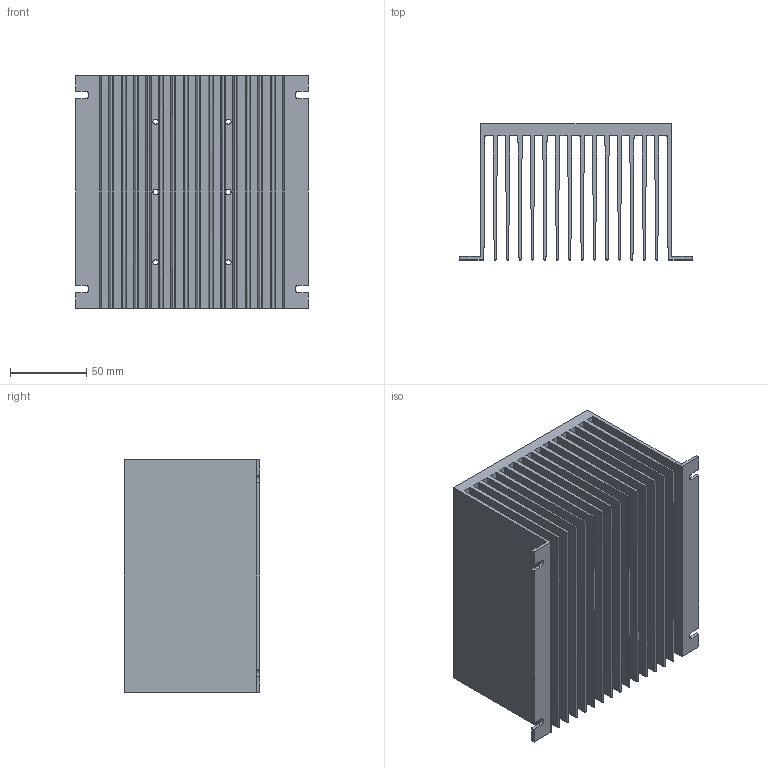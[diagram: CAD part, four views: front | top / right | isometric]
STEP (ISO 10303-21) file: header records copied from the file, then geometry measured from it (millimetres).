
FILE_DESCRIPTION((''),'2;1');
FILE_NAME('SSRHP05','2017-08-30T',('SESA108399'),('Schneider-Electric'),'PRO/ENGINEER BY PARAMETRIC TECHNOLOGY CORPORATION, 2015440','PRO/ENGINEER BY PARAMETRIC TECHNOLOGY CORPORATION, 2015440','');
FILE_SCHEMA(('CONFIG_CONTROL_DESIGN'));
Length unit declared in the file: millimetre
Products named in the file (1): SSRHP05
Bounding box: 152.4 x 88.9 x 152.4 mm (x, y, z)
Surface area: 446477 mm2 (no closed solid volume)
Topology: 0 solids, 0 shells, 122 faces, 756 edges, 756 vertices
Faces by surface type: bspline 122
Entity records: 11865 total; most frequent: CARTESIAN_POINT 4722, DIRECTION 1190, TRIMMED_CURVE 1042, VECTOR 894, LINE 894, DEFINITIONAL_REPRESENTATION 756, PCURVE 756, COMPOSITE_CURVE_SEGMENT 756
